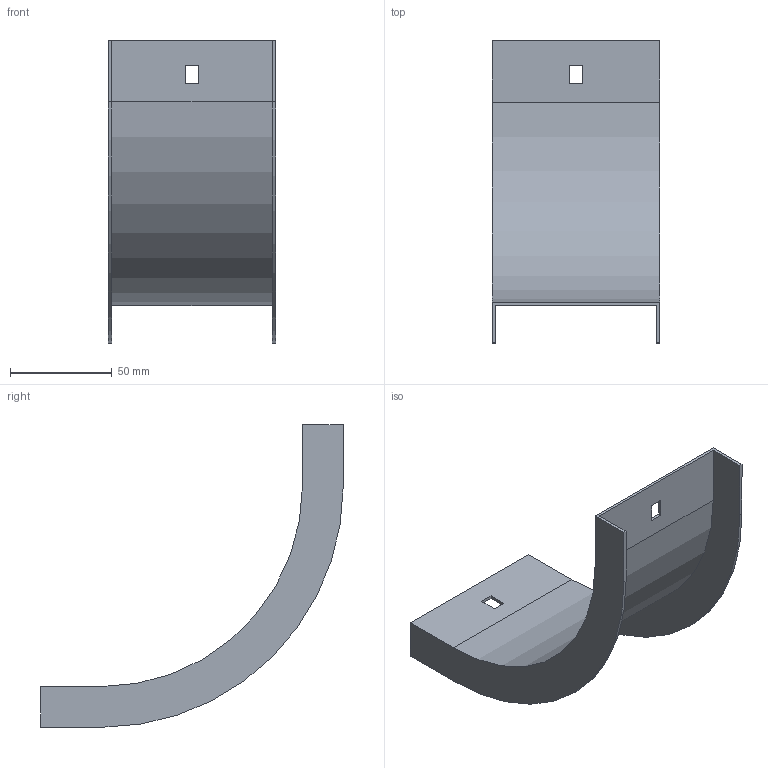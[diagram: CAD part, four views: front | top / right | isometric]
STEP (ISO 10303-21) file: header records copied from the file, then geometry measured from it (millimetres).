
FILE_DESCRIPTION (( 'STEP AP214' ), '1' );
FILE_NAME ('30G1P075.step', '2025-02-21T12:48:16', ( '' ), ( '' ), 'SwSTEP 2.0', 'SolidWorks 2023', '' );
FILE_SCHEMA (( 'AUTOMOTIVE_DESIGN' ));
Length unit declared in the file: millimetre
Products named in the file (1): 30G1P075
Bounding box: 82 x 148.5 x 148.5 mm (x, y, z)
Volume: 39234.7 mm3; surface area: 53497.8 mm2
Topology: 1 solids, 1 shells, 26 faces, 72 edges, 48 vertices
Faces by surface type: plane 22, cylinder 4
Entity records: 855 total; most frequent: CARTESIAN_POINT 147, ORIENTED_EDGE 144, DIRECTION 134, EDGE_CURVE 72, LINE 64, VECTOR 64, VERTEX_POINT 48, AXIS2_PLACEMENT_3D 35
